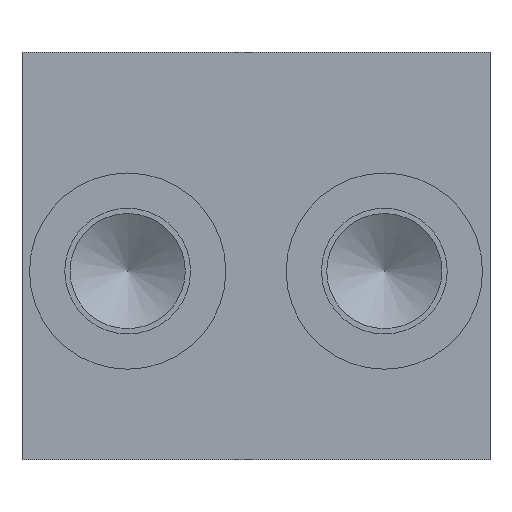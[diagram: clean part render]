
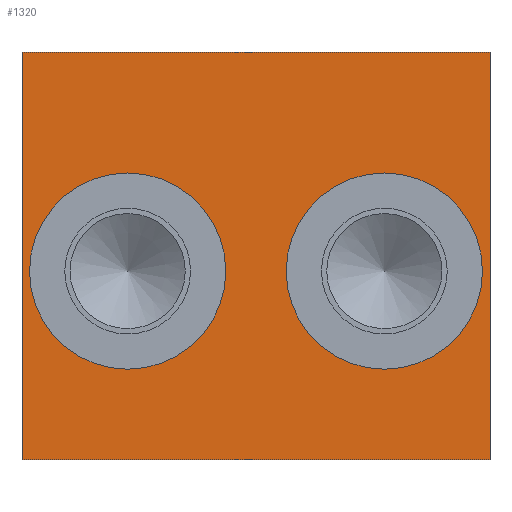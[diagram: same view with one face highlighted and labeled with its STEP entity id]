
A CAD part, left-side view. The second image highlights one B-rep face of the part: STEP entity #1320.
In plain terms, the highlighted planar face has unit normal (-1, 0, 0).
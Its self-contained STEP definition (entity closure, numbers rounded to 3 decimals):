
#1320=ADVANCED_FACE('', (#1330,#1340,#1350), #1360, .T.);
#5240=AXIS2_PLACEMENT_3D('Ax2Pl3d', #5250, #5260, #5270);
#5280=AXIS2_PLACEMENT_3D('Ax2Pl3d', #5290, #5300, #5310);
#5320=AXIS2_PLACEMENT_3D('Ax2Pl3d', #5330, #5340, #5350);
#7920=CARTESIAN_POINT('', (0.,0.,0.));
#7940=CARTESIAN_POINT('', (0.,0.,0.));
#7950=CARTESIAN_POINT('', (0.,62.,0.));
#8040=CARTESIAN_POINT('', (0.,0.,54.));
#8050=CARTESIAN_POINT('', (0.,62.,54.));
#8060=CARTESIAN_POINT('', (0.,0.,54.));
#5250=CARTESIAN_POINT('HicPkt', (0.,14.,25.));
#8410=CARTESIAN_POINT('', (0.,1.,25.));
#5290=CARTESIAN_POINT('HicPkt', (0.,0.,0.));
#8420=CARTESIAN_POINT('', (0.,0.,54.));
#8430=CARTESIAN_POINT('', (0.,62.,54.));
#5330=CARTESIAN_POINT('HicPkt', (0.,48.,25.));
#8440=CARTESIAN_POINT('', (0.,35.,25.));
#9140=CIRCLE('Circle', #5240, 13.);
#9150=CIRCLE('Circle', #5320, 13.);
#12340=DIRECTION('', (0.,-1.,0.));
#12370=DIRECTION('', (0.,-1.,0.));
#5260=DIRECTION('Axis', (-1.,0.,0.)
);
#5270=DIRECTION('RefDirection', (0.,
0.,-1.));
#5300=DIRECTION('Axis', (-1.,0.,0.)
);
#5310=DIRECTION('RefDirection', (0.,
0.,-1.));
#12410=DIRECTION('', (0.,0.,1.));
#12420=DIRECTION('', (0.,0.,1.));
#5340=DIRECTION('Axis', (-1.,0.,0.)
);
#5350=DIRECTION('RefDirection', (0.,
0.,-1.));
#12490=EDGE_CURVE('', #12500, #12460, #12510, .T.);
#12670=EDGE_CURVE('', #12680, #12690, #12700, .T.);
#13270=EDGE_CURVE('', #13280, #13280, #9140, .T.);
#13290=EDGE_CURVE('', #12460, #12690, #13300, .T.);
#13310=EDGE_CURVE('', #12500, #12680, #13320, .T.);
#13330=EDGE_CURVE('', #13340, #13340, #9150, .T.);
#15250=EDGE_LOOP('Edge_loop', (#15260,#15270,#15280,#15290));
#15300=EDGE_LOOP('Edge_loop', (#15310));
#15320=EDGE_LOOP('Edge_loop', (#15330));
#1340=FACE_BOUND('', #15300, .T.);
#1350=FACE_BOUND('', #15320, .T.);
#1330=FACE_OUTER_BOUND('Face_outer_bound', #15250, .T.);
#12510=LINE('Line', #7940, #18380);
#12700=LINE('Line', #8040, #18410);
#13300=LINE('Line', #8420, #18450);
#13320=LINE('Line', #8430, #18460);
#15260=ORIENTED_EDGE('', *, *, #13290, .T.);
#15270=ORIENTED_EDGE('', *, *, #12670, .F.);
#15280=ORIENTED_EDGE('', *, *, #13310, .F.);
#15290=ORIENTED_EDGE('', *, *, #12490, .T.);
#15310=ORIENTED_EDGE('', *, *, #13270, .F.);
#15330=ORIENTED_EDGE('', *, *, #13330, .F.);
#1360=PLANE('Plane', #5280);
#18380=VECTOR('', #12340, 62.);
#18410=VECTOR('', #12370, 62.);
#18450=VECTOR('', #12410, 54.);
#18460=VECTOR('', #12420, 54.);
#12460=VERTEX_POINT('', #7920);
#12500=VERTEX_POINT('', #7950);
#12680=VERTEX_POINT('', #8050);
#12690=VERTEX_POINT('', #8060);
#13280=VERTEX_POINT('', #8410);
#13340=VERTEX_POINT('', #8440);
